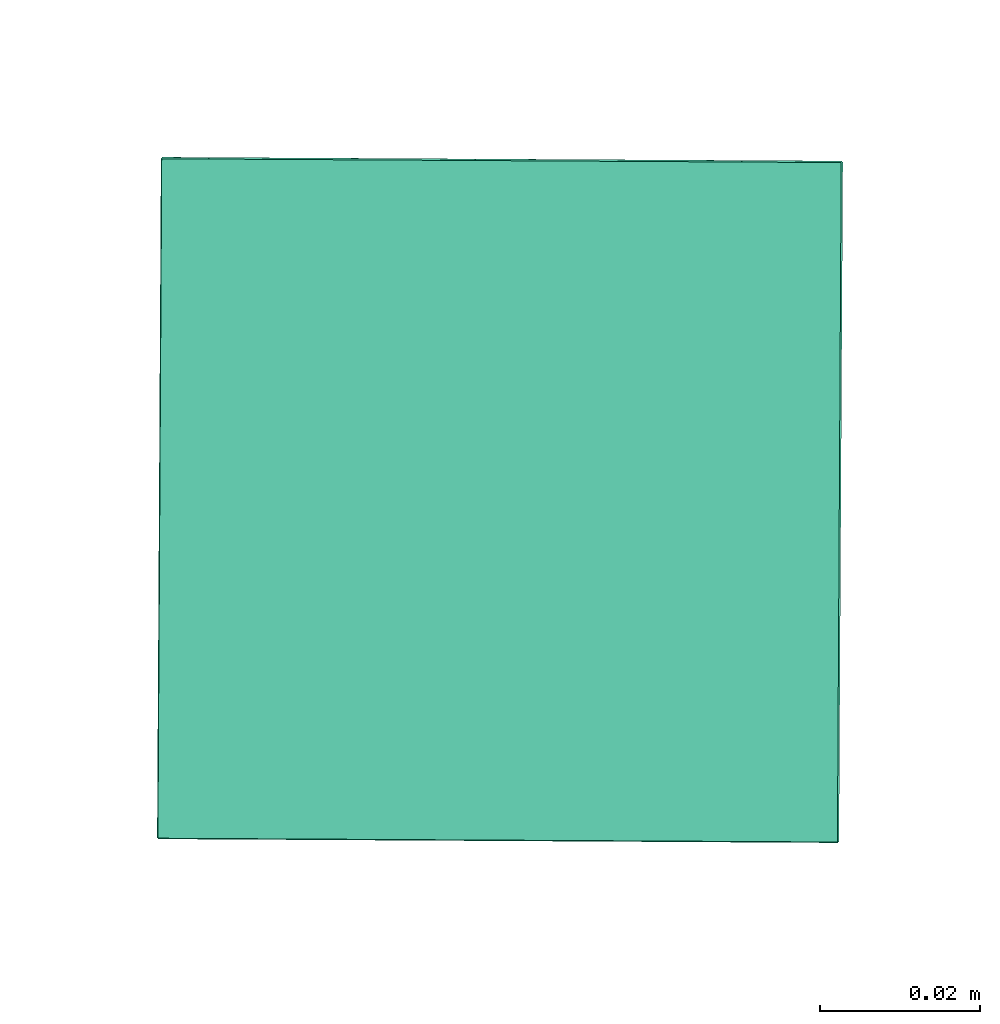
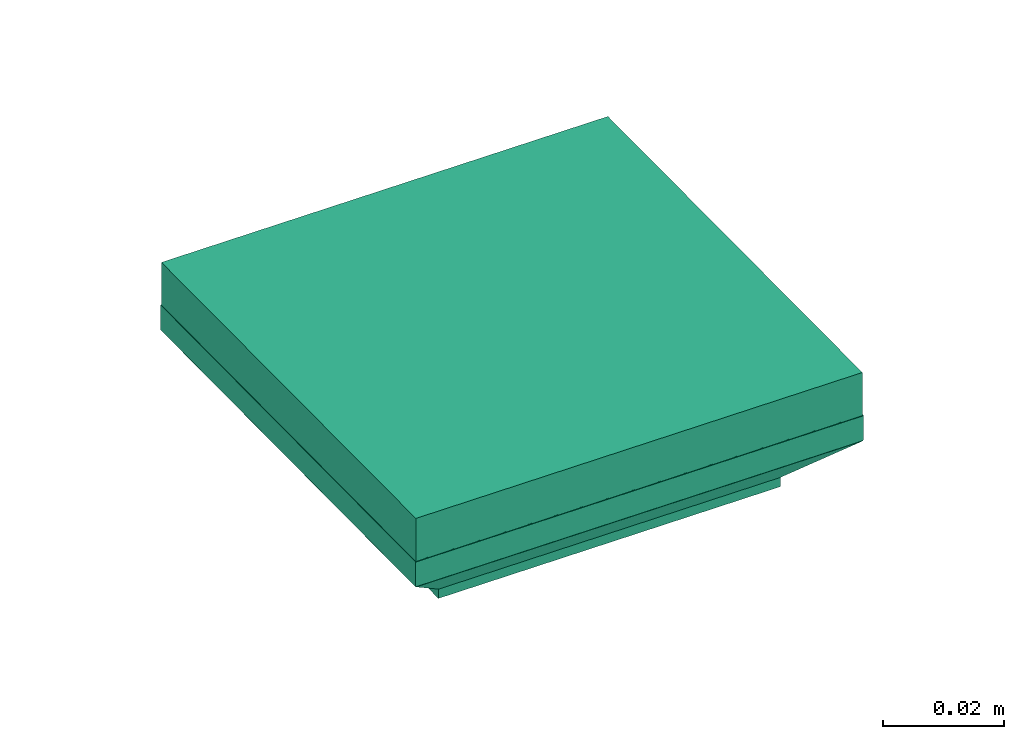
# One storey, part 3 of 3: 1 flow terminal.
"""IFC2X3 building model written with IfcOpenShell, lengths in millimetres."""

from ifc_helpers import new_model, entity, si_unit, converted_unit, derived_unit, direction, frame, origin_with_axes, place, context, subcontext, project, spatial, open_shell, surface_model, source, transform, mapped, type_object, element, save


model = new_model("IFC2X3")

# Units and contexts
model_context = context("Model", 3, precision=0.01, world=frame((0.0, 4.29681676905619e-09, 0.0)), true_north=direction((4.01073788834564e-13, 1.0)))
plan_context = context("Plan", 3, precision=0.01, world=frame((0.0, 4.29681676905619e-09, 0.0)), true_north=direction((4.01073788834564e-13, 1.0)))
body_context = subcontext(model_context, "Body", "Model", "MODEL_VIEW")
ifc_project = project(units=[converted_unit("PLANEANGLEUNIT", "DEGREE", entity("IfcPositiveLengthMeasure", 0.0174532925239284), si_unit("PLANEANGLEUNIT", "RADIAN"), dimensions=[0, 0, 0, 0, 0, 0, 0]), si_unit("AREAUNIT", "SQUARE_METRE"), si_unit("LENGTHUNIT", "METRE", prefix="MILLI"), si_unit("MASSUNIT", "GRAM", prefix="KILO"), si_unit("POWERUNIT", "WATT"), si_unit("PRESSUREUNIT", "PASCAL", prefix="KILO"), si_unit("FORCEUNIT", "NEWTON", prefix="KILO"), si_unit("ELECTRICVOLTAGEUNIT", "VOLT"), si_unit("ELECTRICCURRENTUNIT", "AMPERE"), si_unit("THERMODYNAMICTEMPERATUREUNIT", "DEGREE_CELSIUS"), si_unit("TIMEUNIT", "SECOND"), si_unit("VOLUMEUNIT", "CUBIC_METRE"), derived_unit("LINEARVELOCITYUNIT", [(si_unit("LENGTHUNIT", "METRE"), 1), (si_unit("TIMEUNIT", "SECOND"), -1)]), derived_unit("VOLUMETRICFLOWRATEUNIT", [(si_unit("VOLUMEUNIT", "CUBIC_METRE"), 1), (si_unit("TIMEUNIT", "SECOND"), -1)]), derived_unit("THERMALTRANSMITTANCEUNIT", [(si_unit("POWERUNIT", "WATT"), 1), (si_unit("THERMODYNAMICTEMPERATUREUNIT", "KELVIN"), -1), (si_unit("AREAUNIT", "SQUARE_METRE"), -1)]), derived_unit("SOUNDPRESSUREUNIT", [(si_unit("PRESSUREUNIT", "PASCAL"), 1)])], contexts=[model_context, plan_context])

# Site, building, storey
site_placement = place(None, frame((0.0, -4.29681676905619e-09, 0.0), z_axis=(0.0, 0.0, 1.0), x_axis=(1.0, 0.0, 0.0)))
site = spatial("IfcSite", under=ifc_project, at=site_placement, Name="ENGM", CompositionType="ELEMENT")
building_placement = place(site_placement, frame((0.0, 4.29681676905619e-09, 0.0), z_axis=(0.0, 0.0, 1.0), x_axis=(1.0, 0.0, 0.0)))
building = spatial("IfcBuilding", under=site, at=building_placement, Name="TS", CompositionType="ELEMENT")
storey_placement = place(building_placement, frame((0.0, 0.0, 210900.0), z_axis=(0.0, 0.0, 1.0), x_axis=(1.0, 0.0, 0.0)))
storey = spatial("IfcBuildingStorey", under=building, at=storey_placement, Name="Nivå F", CompositionType="ELEMENT", Elevation=210900.0)

# Flow terminal
outlet_type = type_object("IfcOutletType", Name="Datauttak dobbel Tak - WLAN", PredefinedType="COMMUNICATIONSOUTLET")
shared_shape = source(origin_with_axes(), body_context, "Body", "SurfaceModel", [
    surface_model("IfcShellBasedSurfaceModel", [(42.5, 42.4761, -11.68863), (32.5, 32.48658, -21.6991), (-42.5, 42.4761, -11.68863), (-32.5, 32.48658, -21.6991), (-42.5, 42.33453, -11.54735), (-32.5, 32.34501, -21.55782), (42.5, 42.33453, -11.54735), (32.5, 32.34501, -21.55782), (42.5, -42.524, -11.63622), (32.5, -32.51353, -21.62574), (-42.5, -42.524, -11.63622), (-32.5, -32.51353, -21.62574), (-42.5, -42.66527, -11.77779), (-32.5, -32.65481, -21.76731), (42.5, -42.66527, -11.77779), (32.5, -32.65481, -21.76731), (-32.57071, -32.5841, -21.76724), (-42.57071, -42.59456, -11.77771), (-32.57071, 32.41587, -21.69917), (-42.57071, 42.40539, -11.6887), (-32.42929, 32.41572, -21.55775), (-42.42929, 42.40524, -11.54728), (-32.42929, -32.58424, -21.62581), (-42.42929, -42.59471, -11.63629), (32.42929, -32.58424, -21.62581), (42.42929, -42.59471, -11.63629), (32.42929, 32.41572, -21.55775), (42.42929, 42.40524, -11.54728), (32.57071, 32.41587, -21.69917), (42.57071, 42.40539, -11.6887), (32.57071, -32.5841, -21.76724), (42.57071, -42.59456, -11.77771), (42.4, -42.59463, -11.707), (42.4, -42.59987, -6.70701), (42.4, 42.40532, -11.61799), (42.4, 42.40008, -6.61799), (42.6, 42.40532, -11.61799), (42.6, 42.40008, -6.61799), (42.6, -42.59463, -11.707), (42.6, -42.59987, -6.70701), (-42.5, -42.69987, -6.70711), (-42.5, -42.69464, -11.70711), (42.5, -42.69987, -6.70711), (42.5, -42.69464, -11.70711), (42.5, -42.49987, -6.7069), (42.5, -42.49464, -11.7069), (-42.5, -42.49987, -6.7069), (-42.5, -42.49464, -11.7069), (-42.6, -42.59463, -11.707), (-42.6, -42.59987, -6.70701), (-42.6, 42.40532, -11.61799), (-42.6, 42.40008, -6.61799), (-42.4, 42.40532, -11.61799), (-42.4, 42.40008, -6.61799), (-42.4, -42.59463, -11.707), (-42.4, -42.59987, -6.70701), (-42.5, -42.59998, -6.60701), (42.5, -42.59998, -6.60701), (42.5, 42.39998, -6.51799), (-42.5, 42.39998, -6.51799), (-42.5, 42.40019, -6.71799), (42.5, 42.40019, -6.71799), (42.5, -42.59977, -6.80701), (-42.5, -42.59977, -6.80701), (-42.5, 42.30008, -6.6181), (-42.5, 42.30532, -11.6181), (42.5, 42.30008, -6.6181), (42.5, 42.30532, -11.6181), (42.5, 42.50008, -6.61789), (42.5, 42.50532, -11.61789), (-42.5, 42.50008, -6.61789), (-42.5, 42.50532, -11.61789), (-32.5, -32.58427, -21.59653), (32.5, -32.58427, -21.59653), (32.5, 32.41569, -21.52846), (-32.5, 32.41569, -21.52846), (-32.5, 32.4159, -21.72846), (32.5, 32.4159, -21.72846), (-32.5, -32.58406, -21.79653), (32.5, -32.58406, -21.79653), (-17.5, 0.41781, -23.57197), (-2.5, 0.41781, -23.57197), (-2.5, 15.4178, -23.55626), (-17.5, 15.4178, -23.55626), (-17.5, 15.41801, -23.75626), (-2.5, 15.41801, -23.75626), (-17.5, 0.41802, -23.77197), (-2.5, 0.41802, -23.77197), (2.5, 0.41781, -23.57197), (17.5, 0.41781, -23.57197), (17.5, 15.4178, -23.55626), (2.5, 15.4178, -23.55626), (2.5, 15.41801, -23.75626), (17.5, 15.41801, -23.75626), (2.5, 0.41802, -23.77197), (17.5, 0.41802, -23.77197), (-32.5, 32.41789, -23.62846), (-32.5, 32.41579, -21.62846), (32.5, 32.41789, -23.62846), (32.5, 32.41579, -21.62846), (32.5, 27.41789, -23.63369), (32.5, 27.4158, -21.63369), (-32.5, 27.41789, -23.63369), (-32.5, 27.4158, -21.63369), (-32.5, 17.4179, -23.64416), (-32.5, 17.4158, -21.64417), (32.5, 17.4179, -23.64416), (32.5, 17.4158, -21.64417), (32.5, -32.58208, -23.69652), (32.5, -32.58417, -21.69652), (-32.5, -32.58208, -23.69652), (-32.5, -32.58417, -21.69652), (42.4, -42.59463, 2.0), (42.4, 42.30008, 2.0), (-42.5, 42.30008, 2.0), (-42.5, -42.59463, 2.0), (-42.5, -42.59463, -6.6181), (42.4, 42.30008, -6.6181), (42.4, -42.59463, -6.6181)], [open_shell([[[0, 1, 2]], [[3, 2, 1]], [[4, 5, 6]], [[7, 6, 5]], [[3, 1, 5]], [[7, 5, 1]], [[2, 3, 5]], [[5, 4, 2]], [[0, 2, 4]], [[4, 6, 0]], [[1, 0, 6]], [[6, 7, 1]], [[8, 9, 10]], [[11, 10, 9]], [[12, 13, 14]], [[15, 14, 13]], [[11, 9, 13]], [[15, 13, 9]], [[10, 11, 13]], [[13, 12, 10]], [[8, 10, 12]], [[12, 14, 8]], [[9, 8, 14]], [[14, 15, 9]], [[16, 17, 18]], [[19, 18, 17]], [[20, 21, 22]], [[23, 22, 21]], [[19, 17, 23]], [[23, 21, 19]], [[18, 19, 21]], [[21, 20, 18]], [[16, 18, 20]], [[20, 22, 16]], [[17, 16, 22]], [[22, 23, 17]], [[24, 25, 26]], [[27, 26, 25]], [[28, 29, 30]], [[31, 30, 29]], [[27, 25, 31]], [[31, 29, 27]], [[26, 27, 28]], [[29, 28, 27]], [[24, 26, 28]], [[28, 30, 24]], [[25, 24, 30]], [[30, 31, 25]], [[32, 33, 34]], [[35, 34, 33]], [[36, 37, 38]], [[39, 38, 37]], [[35, 33, 39]], [[39, 37, 35]], [[34, 35, 36]], [[37, 36, 35]], [[32, 34, 36]], [[36, 38, 32]], [[33, 32, 39]], [[38, 39, 32]], [[40, 41, 42]], [[43, 42, 41]], [[44, 45, 46]], [[47, 46, 45]], [[41, 40, 46]], [[46, 47, 41]], [[40, 42, 44]], [[44, 46, 40]], [[42, 43, 45]], [[45, 44, 42]], [[43, 41, 47]], [[47, 45, 43]], [[48, 49, 50]], [[51, 50, 49]], [[52, 53, 54]], [[55, 54, 53]], [[51, 49, 55]], [[55, 53, 51]], [[50, 51, 52]], [[53, 52, 51]], [[48, 50, 52]], [[52, 54, 48]], [[49, 48, 55]], [[54, 55, 48]], [[56, 57, 58]], [[58, 59, 56]], [[60, 61, 62]], [[62, 63, 60]], [[58, 57, 62]], [[62, 61, 58]], [[59, 58, 61]], [[61, 60, 59]], [[56, 59, 60]], [[60, 63, 56]], [[57, 56, 63]], [[63, 62, 57]], [[64, 65, 66]], [[67, 66, 65]], [[68, 69, 70]], [[71, 70, 69]], [[65, 64, 70]], [[70, 71, 65]], [[64, 66, 68]], [[68, 70, 64]], [[66, 67, 69]], [[69, 68, 66]], [[67, 65, 71]], [[71, 69, 67]], [[72, 73, 74]], [[74, 75, 72]], [[76, 77, 78]], [[79, 78, 77]], [[74, 73, 79]], [[79, 77, 74]], [[75, 74, 77]], [[77, 76, 75]], [[72, 75, 78]], [[76, 78, 75]], [[73, 72, 78]], [[78, 79, 73]], [[80, 81, 82]], [[82, 83, 80]], [[84, 85, 86]], [[87, 86, 85]], [[82, 81, 85]], [[87, 85, 81]], [[83, 82, 85]], [[85, 84, 83]], [[80, 83, 86]], [[84, 86, 83]], [[81, 80, 86]], [[86, 87, 81]], [[88, 89, 90]], [[90, 91, 88]], [[92, 93, 94]], [[95, 94, 93]], [[90, 89, 93]], [[95, 93, 89]], [[91, 90, 93]], [[93, 92, 91]], [[88, 91, 94]], [[92, 94, 91]], [[89, 88, 94]], [[94, 95, 89]], [[96, 97, 98]], [[99, 98, 97]], [[100, 101, 102]], [[103, 102, 101]], [[99, 97, 103]], [[103, 101, 99]], [[98, 99, 101]], [[101, 100, 98]], [[96, 98, 100]], [[100, 102, 96]], [[97, 96, 103]], [[102, 103, 96]], [[104, 105, 106]], [[107, 106, 105]], [[108, 109, 110]], [[111, 110, 109]], [[107, 105, 111]], [[111, 109, 107]], [[106, 107, 109]], [[109, 108, 106]], [[104, 106, 108]], [[108, 110, 104]], [[105, 104, 110]], [[110, 111, 105]], [[112, 113, 114]], [[114, 115, 112]], [[116, 64, 117]], [[117, 118, 116]], [[114, 113, 117]], [[117, 64, 114]], [[115, 114, 64]], [[64, 116, 115]], [[112, 115, 116]], [[116, 118, 112]], [[113, 112, 118]], [[118, 117, 113]]])]),
])
flow_terminal_placement = place(storey_placement, frame((720806.08488, 439462.81528, 2800.0), z_axis=(0.0, 0.0, 1.0), x_axis=(0.999984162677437, -0.00562800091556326, 0.0)))
element("IfcFlowTerminal", 1, at=flow_terminal_placement, inside=storey, type_object=outlet_type, Name="Datauttak dobbel Tak - WLAN", context=body_context, shape_type="MappedRepresentation", body=[
    mapped(shared_shape, transform((0.0, 0.0, 0.0), scale=1.0)),
])

save(model, "model.ifc")
